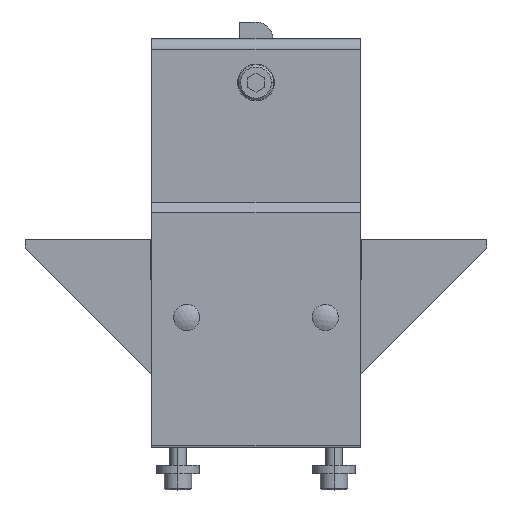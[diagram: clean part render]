
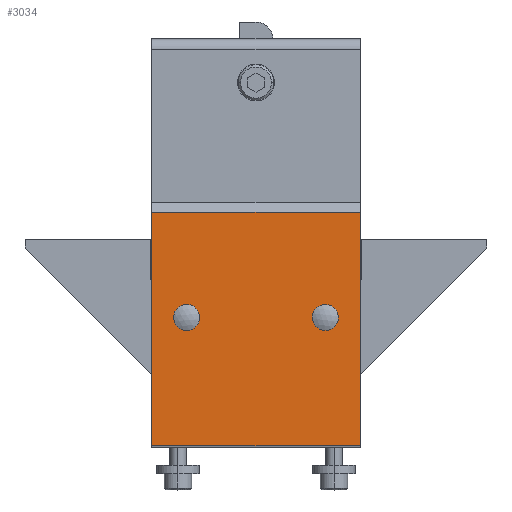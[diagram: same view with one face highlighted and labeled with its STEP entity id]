
A CAD part, top view. The second image highlights one B-rep face of the part: STEP entity #3034.
In plain terms, the highlighted planar face has unit normal (0, 0, 1) as drawn and (-1, 0, 0) by its records, which use the part's own axes.
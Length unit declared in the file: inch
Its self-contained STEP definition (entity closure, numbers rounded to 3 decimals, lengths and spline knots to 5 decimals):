
#1903=DIRECTION('',(0.,-1.,0.));
#1904=VECTOR('',#1903,3.3685);
#1905=CARTESIAN_POINT('',(0.,3.3985,1.5));
#1906=LINE('',#1905,#1904);
#2038=DIRECTION('',(0.,1.,0.));
#2039=VECTOR('',#2038,3.3685);
#2040=CARTESIAN_POINT('',(0.,0.03,-1.5));
#2041=LINE('',#2040,#2039);
#2175=DIRECTION('',(0.,0.,-1.));
#2176=VECTOR('',#2175,3.);
#2177=CARTESIAN_POINT('',(0.,0.03,1.5));
#2178=LINE('',#2177,#2176);
#2183=CARTESIAN_POINT('',(0.,1.881,1.));
#2184=DIRECTION('',(1.,0.,0.));
#2185=DIRECTION('',(0.,0.,1.));
#2186=AXIS2_PLACEMENT_3D('',#2183,#2184,#2185);
#2188=CARTESIAN_POINT('',(0.,1.881,1.));
#2189=DIRECTION('',(1.,0.,0.));
#2190=DIRECTION('',(0.,0.,-1.));
#2191=AXIS2_PLACEMENT_3D('',#2188,#2189,#2190);
#2193=CARTESIAN_POINT('',(0.,1.881,-1.));
#2194=DIRECTION('',(1.,0.,0.));
#2195=DIRECTION('',(0.,0.,1.));
#2196=AXIS2_PLACEMENT_3D('',#2193,#2194,#2195);
#2198=CARTESIAN_POINT('',(0.,1.881,-1.));
#2199=DIRECTION('',(1.,0.,0.));
#2200=DIRECTION('',(0.,0.,-1.));
#2201=AXIS2_PLACEMENT_3D('',#2198,#2199,#2200);
#2203=DIRECTION('',(0.,0.,1.));
#2204=VECTOR('',#2203,3.);
#2205=CARTESIAN_POINT('',(0.,3.3985,-1.5));
#2206=LINE('',#2205,#2204);
#2477=CARTESIAN_POINT('',(0.,1.881,-1.097));
#2478=CARTESIAN_POINT('',(0.,1.881,-0.903));
#2479=VERTEX_POINT('',#2477);
#2480=VERTEX_POINT('',#2478);
#2565=CARTESIAN_POINT('',(0.,1.881,1.097));
#2566=CARTESIAN_POINT('',(0.,1.881,0.903));
#2567=VERTEX_POINT('',#2565);
#2568=VERTEX_POINT('',#2566);
#2588=CARTESIAN_POINT('',(0.,3.3985,1.5));
#2590=VERTEX_POINT('',#2588);
#2615=CARTESIAN_POINT('',(0.,3.3985,-1.5));
#2616=VERTEX_POINT('',#2615);
#2623=CARTESIAN_POINT('',(0.,0.03,-1.5));
#2624=VERTEX_POINT('',#2623);
#2635=CARTESIAN_POINT('',(0.,0.03,1.5));
#2636=VERTEX_POINT('',#2635);
#3010=CARTESIAN_POINT('',(0.,5.8985,-1.5));
#3011=DIRECTION('',(-1.,0.,0.));
#3012=DIRECTION('',(0.,0.,1.));
#3013=AXIS2_PLACEMENT_3D('',#3010,#3011,#3012);
#3014=PLANE('',#3013);
#3015=ORIENTED_EDGE('',*,*,#2833,.T.);
#3017=ORIENTED_EDGE('',*,*,#3016,.T.);
#3018=ORIENTED_EDGE('',*,*,#2708,.T.);
#3019=ORIENTED_EDGE('',*,*,#3002,.T.);
#3020=EDGE_LOOP('',(#3015,#3017,#3018,#3019));
#3021=FACE_OUTER_BOUND('',#3020,.F.);
#3023=ORIENTED_EDGE('',*,*,#3022,.F.);
#3025=ORIENTED_EDGE('',*,*,#3024,.F.);
#3026=EDGE_LOOP('',(#3023,#3025));
#3027=FACE_BOUND('',#3026,.F.);
#3029=ORIENTED_EDGE('',*,*,#3028,.F.);
#3031=ORIENTED_EDGE('',*,*,#3030,.F.);
#3032=EDGE_LOOP('',(#3029,#3031));
#3033=FACE_BOUND('',#3032,.F.);
#2187=CIRCLE('',#2186,0.097);
#2192=CIRCLE('',#2191,0.097);
#2197=CIRCLE('',#2196,0.097);
#2202=CIRCLE('',#2201,0.097);
#2708=EDGE_CURVE('',#2590,#2636,#1906,.T.);
#2833=EDGE_CURVE('',#2624,#2616,#2041,.T.);
#3002=EDGE_CURVE('',#2636,#2624,#2178,.T.);
#3016=EDGE_CURVE('',#2616,#2590,#2206,.T.);
#3022=EDGE_CURVE('',#2567,#2568,#2187,.T.);
#3024=EDGE_CURVE('',#2568,#2567,#2192,.T.);
#3028=EDGE_CURVE('',#2480,#2479,#2197,.T.);
#3030=EDGE_CURVE('',#2479,#2480,#2202,.T.);
#3034=ADVANCED_FACE('',(#3021,#3027,#3033),#3014,.T.);
